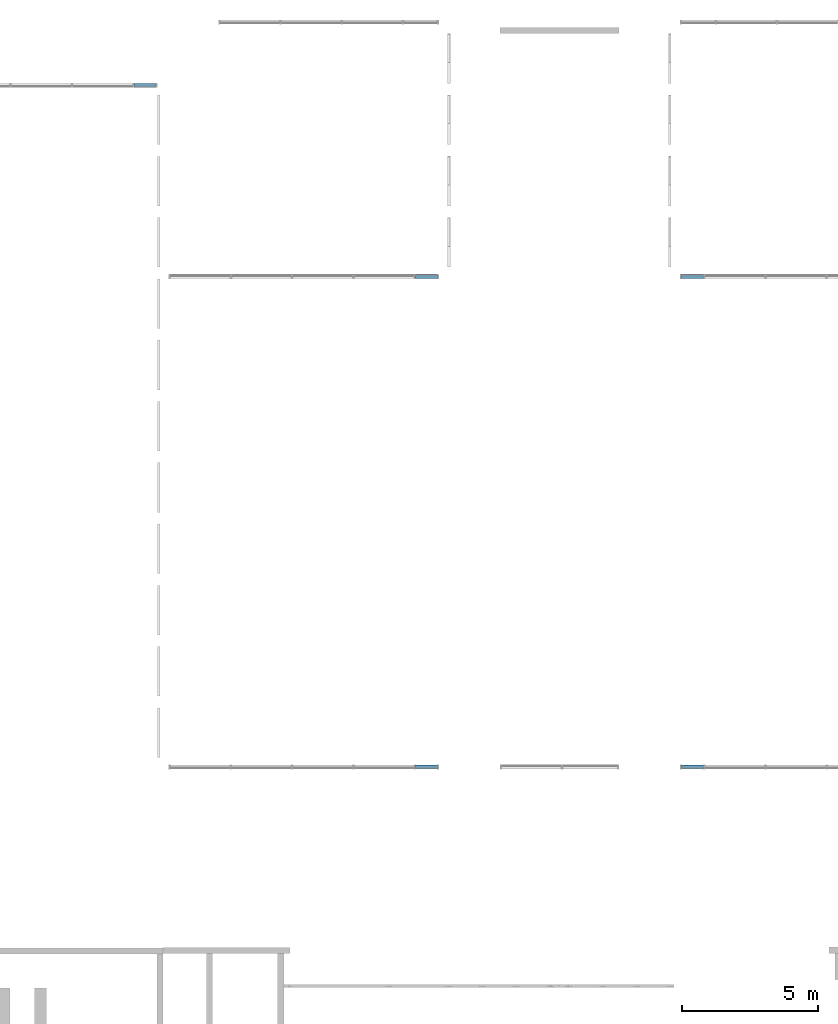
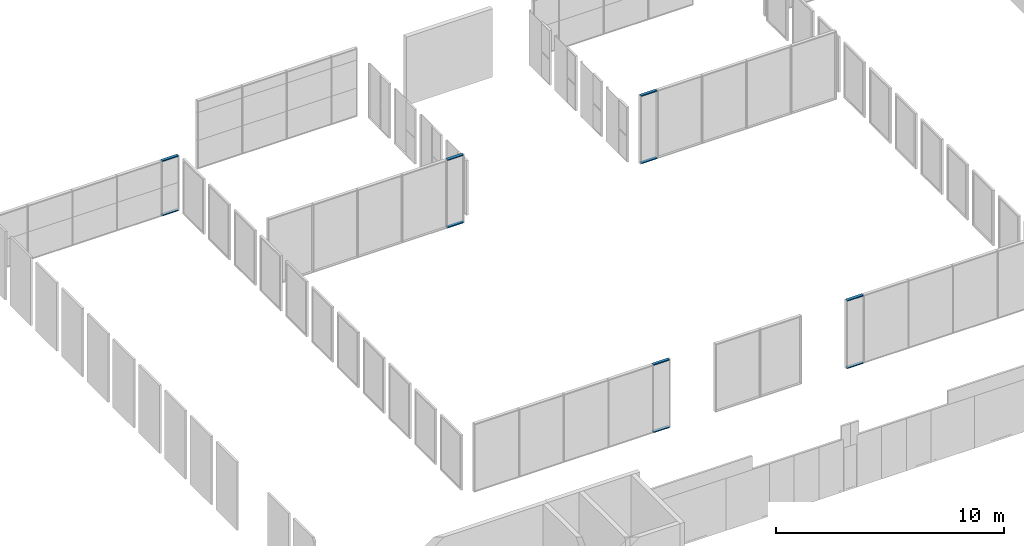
# One storey, part 5 of 15: 10 members, 5 elements without a shape of their own.
"""IFC2X3 building model written with IfcOpenShell, lengths in millimetres."""

from ifc_helpers import new_model, entity, si_unit, converted_unit, derived_unit, direction, frame, origin, origin_2d_with_axis, place, context, subcontext, project, spatial, rectangle, extrude, source, transform, mapped, material, type_object, type_shapes, element, aggregate, save


model = new_model("IFC2X3")

# Units and contexts
model_context = context("Model", 3, precision=0.01, world=origin(), true_north=direction((6.12303176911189e-17, 1.0)))
body_context = subcontext(model_context, "Body", "Model", "MODEL_VIEW")
ifc_project = project(units=[si_unit("LENGTHUNIT", "METRE", prefix="MILLI"), si_unit("AREAUNIT", "SQUARE_METRE"), si_unit("VOLUMEUNIT", "CUBIC_METRE"), converted_unit("PLANEANGLEUNIT", "DEGREE", entity("IfcRatioMeasure", 0.0174532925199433), si_unit("PLANEANGLEUNIT", "RADIAN"), dimensions=[0, 0, 0, 0, 0, 0, 0]), si_unit("MASSUNIT", "GRAM", prefix="KILO"), derived_unit("MASSDENSITYUNIT", [(si_unit("MASSUNIT", "GRAM", prefix="KILO"), 1), (si_unit("LENGTHUNIT", "METRE"), -3)]), derived_unit("MOMENTOFINERTIAUNIT", [(si_unit("LENGTHUNIT", "METRE"), 4)]), si_unit("TIMEUNIT", "SECOND"), si_unit("FREQUENCYUNIT", "HERTZ"), si_unit("THERMODYNAMICTEMPERATUREUNIT", "DEGREE_CELSIUS"), derived_unit("THERMALTRANSMITTANCEUNIT", [(si_unit("MASSUNIT", "GRAM", prefix="KILO"), 1), (si_unit("THERMODYNAMICTEMPERATUREUNIT", "KELVIN"), -1), (si_unit("TIMEUNIT", "SECOND"), -3)]), derived_unit("VOLUMETRICFLOWRATEUNIT", [(si_unit("LENGTHUNIT", "METRE"), 3), (si_unit("TIMEUNIT", "SECOND"), -1)]), si_unit("ELECTRICCURRENTUNIT", "AMPERE"), si_unit("ELECTRICVOLTAGEUNIT", "VOLT"), si_unit("POWERUNIT", "WATT"), si_unit("FORCEUNIT", "NEWTON", prefix="KILO"), si_unit("ILLUMINANCEUNIT", "LUX"), si_unit("LUMINOUSFLUXUNIT", "LUMEN"), si_unit("LUMINOUSINTENSITYUNIT", "CANDELA"), derived_unit("USERDEFINED", [(si_unit("MASSUNIT", "GRAM", prefix="KILO"), -1), (si_unit("LENGTHUNIT", "METRE"), -2), (si_unit("TIMEUNIT", "SECOND"), 3), (si_unit("LUMINOUSFLUXUNIT", "LUMEN"), 1)]), derived_unit("LINEARVELOCITYUNIT", [(si_unit("LENGTHUNIT", "METRE"), 1), (si_unit("TIMEUNIT", "SECOND"), -1)]), si_unit("PRESSUREUNIT", "PASCAL"), derived_unit("USERDEFINED", [(si_unit("LENGTHUNIT", "METRE"), -2), (si_unit("MASSUNIT", "GRAM", prefix="KILO"), 1), (si_unit("TIMEUNIT", "SECOND"), -2)]), derived_unit("LINEARFORCEUNIT", [(si_unit("MASSUNIT", "GRAM", prefix="KILO"), 1), (si_unit("LENGTHUNIT", "METRE"), 1), (si_unit("TIMEUNIT", "SECOND"), -2), (si_unit("LENGTHUNIT", "METRE"), -1)]), derived_unit("PLANARFORCEUNIT", [(si_unit("MASSUNIT", "GRAM", prefix="KILO"), 1), (si_unit("LENGTHUNIT", "METRE"), 1), (si_unit("TIMEUNIT", "SECOND"), -2), (si_unit("LENGTHUNIT", "METRE"), -2)])], contexts=[model_context])

# Site, building, storey
site_placement = place(None, frame((10627.5135316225, 21939.0796949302, 0.0)))
site = spatial("IfcSite", under=ifc_project, at=site_placement, Name="Default", CompositionType="ELEMENT")
building_placement = place(site_placement, origin())
building = spatial("IfcBuilding", under=site, at=building_placement, CompositionType="ELEMENT")
storey_placement = place(building_placement, origin())
storey = spatial("IfcBuildingStorey", under=building, at=storey_placement, Name="RDC", CompositionType="ELEMENT", Elevation=0.0)

# Curtain wall, members
curtain_wall_type_1 = type_object("IfcCurtainWallType", Name="Curtain Wall:Curtain_Wall-Empty", PredefinedType="NOTDEFINED")
curtain_wall_1_placement = place(storey_placement, origin())
curtain_wall_1 = element("IfcCurtainWall", 1, at=curtain_wall_1_placement, inside=storey, type_object=curtain_wall_type_1, Name="Curtain Wall:Curtain_Wall-Empty", ObjectType="Curtain Wall:Curtain_Wall-Empty")
ifc_material = material(Name="Aluminium")
member_type_1 = type_object("IfcMemberType", Name="Rectangular Mullion:50x150mm", PredefinedType="MULLION", material=ifc_material)
shared_shape_1 = source(origin(), body_context, "Body", "SweptSolid", [
    extrude(rectangle(XDim=150.0, YDim=50.0, at=origin_2d_with_axis()), frame((-25.0, 0.0, -810.0), z_axis=(0.0, 0.0, 1.0), x_axis=(0.0, -1.0, 0.0)), (0.0, 0.0, 1.0), 809.999999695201),
])
type_shapes(member_type_1, [shared_shape_1])
member_1_placement = place(storey_placement, frame((11697.4864683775, 14360.9203050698, 2960.0), z_axis=(1.0, 0.0, 0.0), x_axis=(0.0, 0.0, 1.0)))
member_1 = element("IfcMember", 2, at=member_1_placement, type_object=member_type_1, material=ifc_material, Name="Rectangular Mullion:50x150mm", ObjectType="Rectangular Mullion:50x150mm", context=body_context, shape_type="MappedRepresentation", body=[
    mapped(shared_shape_1, transform((0.0, 0.0, 0.0), scale=1.0)),
])
member_type_2 = type_object("IfcMemberType", Name="Rectangular Mullion:50x150mm", PredefinedType="MULLION", material=ifc_material)
shared_shape_2 = source(origin(), body_context, "Body", "SweptSolid", [
    extrude(rectangle(XDim=150.0, YDim=50.0, at=origin_2d_with_axis()), frame((-25.0, 0.0, -810.0), z_axis=(0.0, 0.0, 1.0), x_axis=(0.0, -1.0, 0.0)), (0.0, 0.0, 1.0), 809.999999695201),
])
type_shapes(member_type_2, [shared_shape_2])
member_2_placement = place(storey_placement, frame((10887.4864686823, 14360.9203050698, 0.0), z_axis=(-1.0, 0.0, 0.0), x_axis=(0.0, 0.0, -1.0)))
member_2 = element("IfcMember", 3, at=member_2_placement, type_object=member_type_2, material=ifc_material, Name="Rectangular Mullion:50x150mm", ObjectType="Rectangular Mullion:50x150mm", context=body_context, shape_type="MappedRepresentation", body=[
    mapped(shared_shape_2, transform((0.0, 0.0, 0.0), scale=1.0)),
])
aggregate(curtain_wall_1, [member_1, member_2])

curtain_wall_2_placement = place(storey_placement, origin())
curtain_wall_2 = element("IfcCurtainWall", 4, at=curtain_wall_2_placement, inside=storey, type_object=curtain_wall_type_1, Name="Curtain Wall:Curtain_Wall-Empty", ObjectType="Curtain Wall:Curtain_Wall-Empty")
member_type_3 = type_object("IfcMemberType", Name="Rectangular Mullion:50x150mm", PredefinedType="MULLION", material=ifc_material)
shared_shape_3 = source(origin(), body_context, "Body", "SweptSolid", [
    extrude(rectangle(XDim=150.0, YDim=50.0, at=origin_2d_with_axis()), frame((-25.0, 0.0, -812.0), z_axis=(0.0, 0.0, 1.0), x_axis=(0.0, -1.0, 0.0)), (0.0, 0.0, 1.0), 811.999999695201),
])
type_shapes(member_type_3, [shared_shape_3])
member_3_placement = place(storey_placement, frame((22079.4864683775, 7305.92030506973, 3660.0), z_axis=(1.0, 0.0, 0.0), x_axis=(0.0, 0.0, 1.0)))
member_3 = element("IfcMember", 5, at=member_3_placement, type_object=member_type_3, material=ifc_material, Name="Rectangular Mullion:50x150mm", ObjectType="Rectangular Mullion:50x150mm", context=body_context, shape_type="MappedRepresentation", body=[
    mapped(shared_shape_3, transform((0.0, 0.0, 0.0), scale=1.0)),
])
member_type_4 = type_object("IfcMemberType", Name="Rectangular Mullion:50x150mm", PredefinedType="MULLION", material=ifc_material)
shared_shape_4 = source(origin(), body_context, "Body", "SweptSolid", [
    extrude(rectangle(XDim=150.0, YDim=50.0, at=origin_2d_with_axis()), frame((-25.0, 0.0, -812.0), z_axis=(0.0, 0.0, 1.0), x_axis=(0.0, -1.0, 0.0)), (0.0, 0.0, 1.0), 811.999999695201),
])
type_shapes(member_type_4, [shared_shape_4])
member_4_placement = place(storey_placement, frame((21267.4864686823, 7305.92030506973, 0.0), z_axis=(-1.0, 0.0, 0.0), x_axis=(0.0, 0.0, -1.0)))
member_4 = element("IfcMember", 6, at=member_4_placement, type_object=member_type_4, material=ifc_material, Name="Rectangular Mullion:50x150mm", ObjectType="Rectangular Mullion:50x150mm", context=body_context, shape_type="MappedRepresentation", body=[
    mapped(shared_shape_4, transform((0.0, 0.0, 0.0), scale=1.0)),
])
aggregate(curtain_wall_2, [member_3, member_4])

curtain_wall_3_placement = place(storey_placement, origin())
curtain_wall_3 = element("IfcCurtainWall", 7, at=curtain_wall_3_placement, inside=storey, type_object=curtain_wall_type_1, Name="Curtain Wall:Curtain_Wall-Empty", ObjectType="Curtain Wall:Curtain_Wall-Empty")
member_type_5 = type_object("IfcMemberType", Name="Rectangular Mullion:50x150mm", PredefinedType="MULLION", material=ifc_material)
shared_shape_5 = source(origin(), body_context, "Body", "SweptSolid", [
    extrude(rectangle(XDim=150.0, YDim=50.0, at=origin_2d_with_axis()), frame((-25.0, 0.0, -812.0), z_axis=(0.0, 0.0, 1.0), x_axis=(0.0, -1.0, 0.0)), (0.0, 0.0, 1.0), 811.999999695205),
])
type_shapes(member_type_5, [shared_shape_5])
member_5_placement = place(storey_placement, frame((31075.4864683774, 7305.92030506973, 3660.0), z_axis=(-1.0, 0.0, 0.0), x_axis=(0.0, 0.0, 1.0)))
member_5 = element("IfcMember", 8, at=member_5_placement, type_object=member_type_5, material=ifc_material, Name="Rectangular Mullion:50x150mm", ObjectType="Rectangular Mullion:50x150mm", context=body_context, shape_type="MappedRepresentation", body=[
    mapped(shared_shape_5, transform((0.0, 0.0, 0.0), scale=1.0)),
])
member_type_6 = type_object("IfcMemberType", Name="Rectangular Mullion:50x150mm", PredefinedType="MULLION", material=ifc_material)
shared_shape_6 = source(origin(), body_context, "Body", "SweptSolid", [
    extrude(rectangle(XDim=150.0, YDim=50.0, at=origin_2d_with_axis()), frame((-25.0, 0.0, -812.0), z_axis=(0.0, 0.0, 1.0), x_axis=(0.0, -1.0, 0.0)), (0.0, 0.0, 1.0), 811.999999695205),
])
type_shapes(member_type_6, [shared_shape_6])
member_6_placement = place(storey_placement, frame((31887.4864680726, 7305.92030506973, 0.0), z_axis=(1.0, 0.0, 0.0), x_axis=(0.0, 0.0, -1.0)))
member_6 = element("IfcMember", 9, at=member_6_placement, type_object=member_type_6, material=ifc_material, Name="Rectangular Mullion:50x150mm", ObjectType="Rectangular Mullion:50x150mm", context=body_context, shape_type="MappedRepresentation", body=[
    mapped(shared_shape_6, transform((0.0, 0.0, 0.0), scale=1.0)),
])
aggregate(curtain_wall_3, [member_5, member_6])

curtain_wall_type_2 = type_object("IfcCurtainWallType", Name="Curtain Wall:Curtain_Wall-Empty 2", PredefinedType="NOTDEFINED")
curtain_wall_4_placement = place(storey_placement, origin())
curtain_wall_4 = element("IfcCurtainWall", 10, at=curtain_wall_4_placement, inside=storey, type_object=curtain_wall_type_2, Name="Curtain Wall:Curtain_Wall-Empty 2", ObjectType="Curtain Wall:Curtain_Wall-Empty 2")
member_type_7 = type_object("IfcMemberType", Name="Rectangular Mullion:50x150mm", PredefinedType="MULLION", material=ifc_material)
shared_shape_7 = source(origin(), body_context, "Body", "SweptSolid", [
    extrude(rectangle(XDim=150.0, YDim=50.0, at=origin_2d_with_axis()), frame((-25.0, 0.0, -814.0), z_axis=(0.0, 0.0, 1.0), x_axis=(0.0, -1.0, 0.0)), (0.0, 0.0, 1.0), 813.999999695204),
])
type_shapes(member_type_7, [shared_shape_7])
member_7_placement = place(storey_placement, frame((22079.4864683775, -10774.0796949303, 3660.0), z_axis=(1.0, 0.0, 0.0), x_axis=(0.0, 0.0, 1.0)))
member_7 = element("IfcMember", 11, at=member_7_placement, type_object=member_type_7, material=ifc_material, Name="Rectangular Mullion:50x150mm", ObjectType="Rectangular Mullion:50x150mm", context=body_context, shape_type="MappedRepresentation", body=[
    mapped(shared_shape_7, transform((0.0, 0.0, 0.0), scale=1.0)),
])
member_type_8 = type_object("IfcMemberType", Name="Rectangular Mullion:50x150mm", PredefinedType="MULLION", material=ifc_material)
shared_shape_8 = source(origin(), body_context, "Body", "SweptSolid", [
    extrude(rectangle(XDim=150.0, YDim=50.0, at=origin_2d_with_axis()), frame((-25.0, 0.0, -814.0), z_axis=(0.0, 0.0, 1.0), x_axis=(0.0, -1.0, 0.0)), (0.0, 0.0, 1.0), 813.999999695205),
])
type_shapes(member_type_8, [shared_shape_8])
member_8_placement = place(storey_placement, frame((21265.4864686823, -10774.0796949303, 0.0), z_axis=(-1.0, 0.0, 0.0), x_axis=(0.0, 0.0, -1.0)))
member_8 = element("IfcMember", 12, at=member_8_placement, type_object=member_type_8, material=ifc_material, Name="Rectangular Mullion:50x150mm", ObjectType="Rectangular Mullion:50x150mm", context=body_context, shape_type="MappedRepresentation", body=[
    mapped(shared_shape_8, transform((0.0, 0.0, 0.0), scale=1.0)),
])
aggregate(curtain_wall_4, [member_7, member_8])

curtain_wall_5_placement = place(storey_placement, origin())
curtain_wall_5 = element("IfcCurtainWall", 13, at=curtain_wall_5_placement, inside=storey, type_object=curtain_wall_type_2, Name="Curtain Wall:Curtain_Wall-Empty 2", ObjectType="Curtain Wall:Curtain_Wall-Empty 2")
member_type_9 = type_object("IfcMemberType", Name="Rectangular Mullion:50x150mm", PredefinedType="MULLION", material=ifc_material)
shared_shape_9 = source(origin(), body_context, "Body", "SweptSolid", [
    extrude(rectangle(XDim=150.0, YDim=50.0, at=origin_2d_with_axis()), frame((-25.0, 0.0, -814.0), z_axis=(0.0, 0.0, 1.0), x_axis=(0.0, -1.0, 0.0)), (0.0, 0.0, 1.0), 813.999999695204),
])
type_shapes(member_type_9, [shared_shape_9])
member_9_placement = place(storey_placement, frame((31075.4864683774, -10774.0796949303, 3660.0), z_axis=(-1.0, 0.0, 0.0), x_axis=(0.0, 0.0, 1.0)))
member_9 = element("IfcMember", 14, at=member_9_placement, type_object=member_type_9, material=ifc_material, Name="Rectangular Mullion:50x150mm", ObjectType="Rectangular Mullion:50x150mm", context=body_context, shape_type="MappedRepresentation", body=[
    mapped(shared_shape_9, transform((0.0, 0.0, 0.0), scale=1.0)),
])
member_type_10 = type_object("IfcMemberType", Name="Rectangular Mullion:50x150mm", PredefinedType="MULLION", material=ifc_material)
shared_shape_10 = source(origin(), body_context, "Body", "SweptSolid", [
    extrude(rectangle(XDim=150.0, YDim=50.0, at=origin_2d_with_axis()), frame((-25.0, 0.0, -814.0), z_axis=(0.0, 0.0, 1.0), x_axis=(0.0, -1.0, 0.0)), (0.0, 0.0, 1.0), 813.999999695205),
])
type_shapes(member_type_10, [shared_shape_10])
member_10_placement = place(storey_placement, frame((31889.4864680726, -10774.0796949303, 0.0), z_axis=(1.0, 0.0, 0.0), x_axis=(0.0, 0.0, -1.0)))
member_10 = element("IfcMember", 15, at=member_10_placement, type_object=member_type_10, material=ifc_material, Name="Rectangular Mullion:50x150mm", ObjectType="Rectangular Mullion:50x150mm", context=body_context, shape_type="MappedRepresentation", body=[
    mapped(shared_shape_10, transform((0.0, 0.0, 0.0), scale=1.0)),
])
aggregate(curtain_wall_5, [member_9, member_10])

save(model, "model.ifc")
